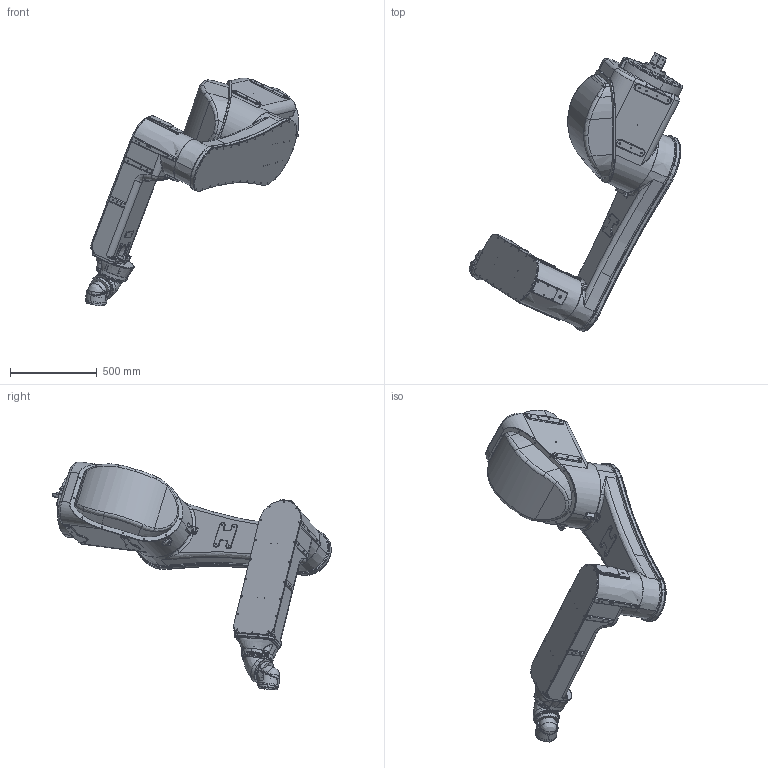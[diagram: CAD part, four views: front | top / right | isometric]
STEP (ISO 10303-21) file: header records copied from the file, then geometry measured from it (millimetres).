
FILE_DESCRIPTION (( 'STEP AP214' ), '1' );
FILE_NAME ('P-50iB-10L - LH.STEP', '2021-02-27T00:45:06', ( '' ), ( '' ), 'SwSTEP 2.0', 'SolidWorks 2019', '' );
FILE_SCHEMA (( 'AUTOMOTIVE_DESIGN' ));
Length unit declared in the file: inch
Products named in the file (7): P-50iB-10L - LH; P-50iB TURRET; P-50iB-10L INNER ARM 900; P-50iB-10L OUTER ARM 900; P-50iB Wrist Faceplate; P-50iB WRIST Wrist Knuckle5; P-50iB-10L Wrist Knuckle
Assembly tree (6 placements, depth 2):
  P-50iB-10L - LH
    P-50iB TURRET
    P-50iB-10L INNER ARM 900
    P-50iB-10L OUTER ARM 900
    P-50iB-10L Wrist Knuckle
    P-50iB WRIST Wrist Knuckle5
    P-50iB Wrist Faceplate
Bounding box: 1230.12 x 1605.37 x 1312.84 mm (x, y, z)
Volume: 79713.3 mm3; surface area: 5596043 mm2
Topology: 1 solids, 44 shells, 2079 faces, 6691 edges, 4598 vertices
Faces by surface type: cylinder 1000, bspline 557, plane 342, cone 180
Entity records: 150880 total; most frequent: CARTESIAN_POINT 89591, ORIENTED_EDGE 11316, DIRECTION 9970, EDGE_CURVE 6652, VERTEX_POINT 4598, AXIS2_PLACEMENT_3D 4059, EDGE_LOOP 2705, CIRCLE 2527
